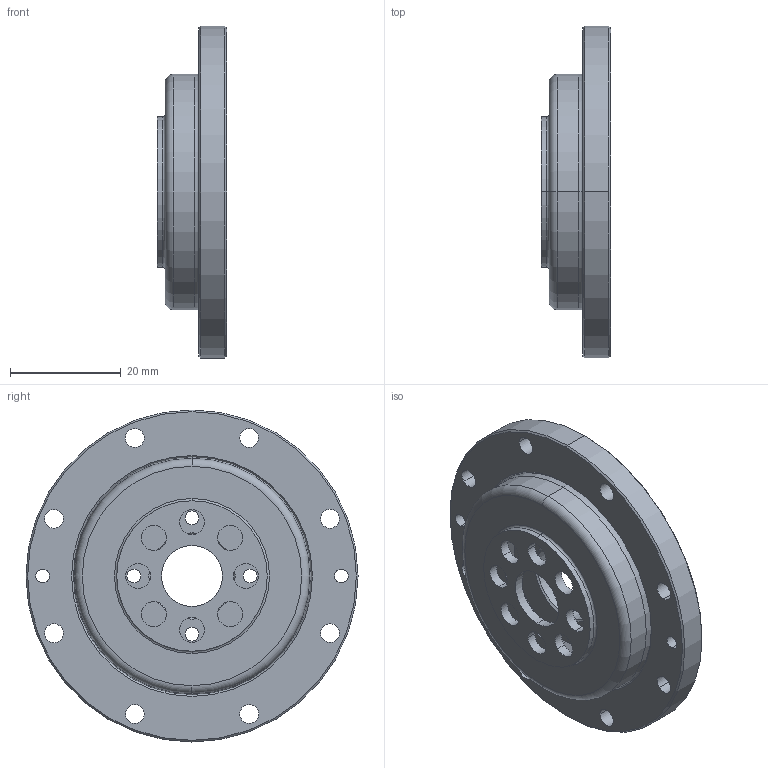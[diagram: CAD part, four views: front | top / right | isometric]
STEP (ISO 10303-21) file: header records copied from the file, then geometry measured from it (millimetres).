
FILE_DESCRIPTION (( 'STEP AP203' ), '1' );
FILE_NAME ('FCD-17-XXX-C.STEP', '2022-06-22T03:52:53', ( '微软用户' ), ( '微软中国' ), 'SwSTEP 2.0', 'SolidWorks 2016', '' );
FILE_SCHEMA (( 'CONFIG_CONTROL_DESIGN' ));
Length unit declared in the file: millimetre
Products named in the file (1): FCD-17-XXX-C
Bounding box: 12.5 x 60 x 60 mm (x, y, z)
Volume: 13821.7 mm3; surface area: 18157.9 mm2
Topology: 30 solids, 30 shells, 312 faces, 850 edges, 557 vertices
Faces by surface type: cylinder 155, plane 63, sphere 46, cone 26, torus 22
Entity records: 9392 total; most frequent: DIRECTION 1871, CARTESIAN_POINT 1536, ORIENTED_EDGE 1470, AXIS2_PLACEMENT_3D 823, EDGE_CURVE 735, CIRCLE 510, VERTEX_POINT 488, EDGE_LOOP 373
